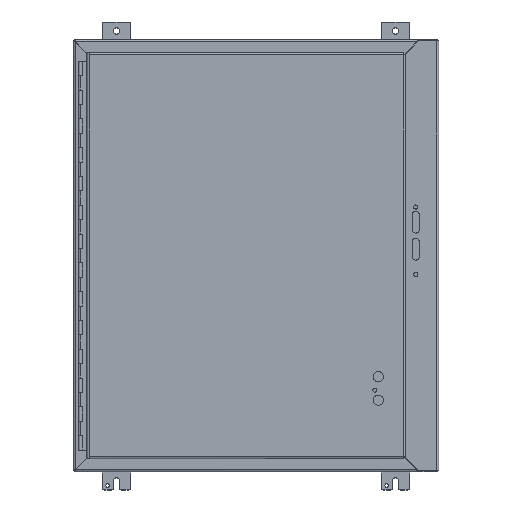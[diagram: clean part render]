
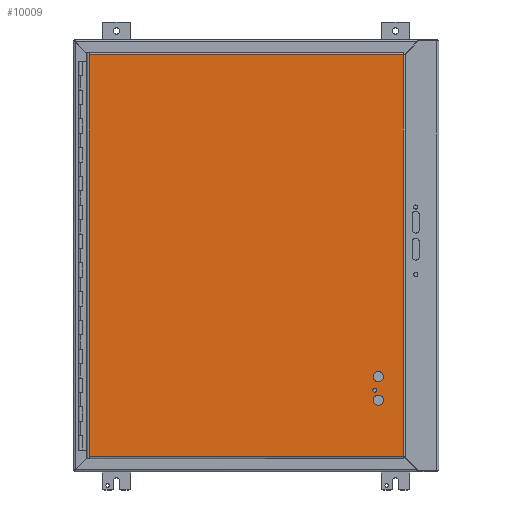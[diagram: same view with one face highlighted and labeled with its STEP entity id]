
A CAD part, top view. The second image highlights one B-rep face of the part: STEP entity #10009.
In plain terms, the highlighted planar face has unit normal (0, 0, 1).
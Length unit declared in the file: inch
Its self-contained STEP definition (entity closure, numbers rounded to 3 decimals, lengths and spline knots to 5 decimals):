
#9821 = VERTEX_POINT ( 'NONE', #15485 ) ;
#9838 = VERTEX_POINT ( 'NONE', #15514 ) ;
#9845 = VERTEX_POINT ( 'NONE', #15555 ) ;
#9846 = EDGE_CURVE ( 'NONE', #9838, #9821, #15554, .T. ) ;
#9852 = VERTEX_POINT ( 'NONE', #15543 ) ;
#9864 = EDGE_CURVE ( 'NONE', #10317, #9867, #15585, .T. ) ;
#9867 = VERTEX_POINT ( 'NONE', #15575 ) ;
#9923 = VERTEX_POINT ( 'NONE', #15690 ) ;
#9942 = VERTEX_POINT ( 'NONE', #15712 ) ;
#9943 = EDGE_CURVE ( 'NONE', #9845, #9942, #15711, .T. ) ;
#9962 = EDGE_LOOP ( 'NONE', ( #9977, #9966 ) ) ;
#9966 = ORIENTED_EDGE ( 'NONE', *, *, #9846, .F. ) ;
#9969 = EDGE_CURVE ( 'NONE', #9821, #9838, #15795, .T. ) ;
#9972 = EDGE_LOOP ( 'NONE', ( #9974, #9975 ) ) ;
#9973 = EDGE_CURVE ( 'NONE', #9867, #10317, #15787, .T. ) ;
#9974 = ORIENTED_EDGE ( 'NONE', *, *, #9973, .F. ) ;
#9975 = ORIENTED_EDGE ( 'NONE', *, *, #9864, .F. ) ;
#9977 = ORIENTED_EDGE ( 'NONE', *, *, #9969, .F. ) ;
#9979 = EDGE_LOOP ( 'NONE', ( #9984, #10151 ) ) ;
#9983 = EDGE_CURVE ( 'NONE', #9942, #9845, #15775, .T. ) ;
#9984 = ORIENTED_EDGE ( 'NONE', *, *, #9983, .F. ) ;
#10009 = ADVANCED_FACE ( 'NONE', ( #15841, #15840, #15839, #15838 ), #15847, .F. ) ;
#10127 = VERTEX_POINT ( 'NONE', #16048 ) ;
#10128 = VERTEX_POINT ( 'NONE', #16047 ) ;
#10129 = EDGE_CURVE ( 'NONE', #10128, #10127, #16046, .T. ) ;
#10131 = ORIENTED_EDGE ( 'NONE', *, *, #10134, .T. ) ;
#10133 = ORIENTED_EDGE ( 'NONE', *, *, #10129, .T. ) ;
#10134 = EDGE_CURVE ( 'NONE', #9923, #9852, #16042, .T. ) ;
#10137 = EDGE_CURVE ( 'NONE', #10127, #9923, #16102, .T. ) ;
#10141 = ORIENTED_EDGE ( 'NONE', *, *, #10137, .T. ) ;
#10143 = EDGE_CURVE ( 'NONE', #9852, #10128, #16093, .T. ) ;
#10151 = ORIENTED_EDGE ( 'NONE', *, *, #9943, .F. ) ;
#10155 = ORIENTED_EDGE ( 'NONE', *, *, #10143, .T. ) ;
#10157 = EDGE_LOOP ( 'NONE', ( #10155, #10133, #10141, #10131 ) ) ;
#10317 = VERTEX_POINT ( 'NONE', #16388 ) ;
#15485 = CARTESIAN_POINT ( 'NONE',  ( 9.5365, -10.032, 0.072 ) ) ;
#15514 = CARTESIAN_POINT ( 'NONE',  ( 8.8335, -10.032, 0.072 ) ) ;
#15543 = CARTESIAN_POINT ( 'NONE',  ( -10.908, -13.943, 0.072 ) ) ;
#15550 = DIRECTION ( 'NONE',  ( 1., 0., 0. ) ) ;
#15551 = DIRECTION ( 'NONE',  ( 0., 0., 1. ) ) ;
#15552 = CARTESIAN_POINT ( 'NONE',  ( 9.185, -10.032, 0.072 ) ) ;
#15553 = AXIS2_PLACEMENT_3D ( 'NONE', #15552, #15551, #15550 ) ;
#15554 = CIRCLE ( 'NONE', #15553, 0.3515 ) ;
#15555 = CARTESIAN_POINT ( 'NONE',  ( 8.7945, -9.345, 0.072 ) ) ;
#15575 = CARTESIAN_POINT ( 'NONE',  ( 9.5365, -8.407, 0.072 ) ) ;
#15581 = DIRECTION ( 'NONE',  ( 1., 0., 0. ) ) ;
#15582 = DIRECTION ( 'NONE',  ( 0., 0., 1. ) ) ;
#15583 = CARTESIAN_POINT ( 'NONE',  ( 9.185, -8.407, 0.072 ) ) ;
#15584 = AXIS2_PLACEMENT_3D ( 'NONE', #15583, #15582, #15581 ) ;
#15585 = CIRCLE ( 'NONE', #15584, 0.3515 ) ;
#15690 = CARTESIAN_POINT ( 'NONE',  ( -10.908, 13.943, 0.072 ) ) ;
#15707 = DIRECTION ( 'NONE',  ( 1., 0., 0. ) ) ;
#15708 = DIRECTION ( 'NONE',  ( 0., 0., 1. ) ) ;
#15709 = CARTESIAN_POINT ( 'NONE',  ( 8.935, -9.345, 0.072 ) ) ;
#15710 = AXIS2_PLACEMENT_3D ( 'NONE', #15709, #15708, #15707 ) ;
#15711 = CIRCLE ( 'NONE', #15710, 0.1405 ) ;
#15712 = CARTESIAN_POINT ( 'NONE',  ( 9.0755, -9.345, 0.072 ) ) ;
#15775 = CIRCLE ( 'NONE', #15835, 0.1405 ) ;
#15783 = DIRECTION ( 'NONE',  ( 1., 0., 0. ) ) ;
#15784 = DIRECTION ( 'NONE',  ( 0., 0., 1. ) ) ;
#15785 = CARTESIAN_POINT ( 'NONE',  ( 9.185, -8.407, 0.072 ) ) ;
#15786 = AXIS2_PLACEMENT_3D ( 'NONE', #15785, #15784, #15783 ) ;
#15787 = CIRCLE ( 'NONE', #15786, 0.3515 ) ;
#15791 = DIRECTION ( 'NONE',  ( 1., 0., 0. ) ) ;
#15792 = DIRECTION ( 'NONE',  ( 0., 0., 1. ) ) ;
#15793 = CARTESIAN_POINT ( 'NONE',  ( 9.185, -10.032, 0.072 ) ) ;
#15794 = AXIS2_PLACEMENT_3D ( 'NONE', #15793, #15792, #15791 ) ;
#15795 = CIRCLE ( 'NONE', #15794, 0.3515 ) ;
#15832 = DIRECTION ( 'NONE',  ( 1., 0., 0. ) ) ;
#15833 = DIRECTION ( 'NONE',  ( 0., 0., 1. ) ) ;
#15834 = CARTESIAN_POINT ( 'NONE',  ( 8.935, -9.345, 0.072 ) ) ;
#15835 = AXIS2_PLACEMENT_3D ( 'NONE', #15834, #15833, #15832 ) ;
#15836 = CARTESIAN_POINT ( 'NONE',  ( -11.06, 14.095, 0.072 ) ) ;
#15837 = AXIS2_PLACEMENT_3D ( 'NONE', #15836, #15903, #15902 ) ;
#15838 = FACE_OUTER_BOUND ( 'NONE', #10157, .T. ) ;
#15839 = FACE_BOUND ( 'NONE', #9979, .T. ) ;
#15840 = FACE_BOUND ( 'NONE', #9972, .T. ) ;
#15841 = FACE_BOUND ( 'NONE', #9962, .T. ) ;
#15847 = PLANE ( 'NONE',  #15837 ) ;
#15902 = DIRECTION ( 'NONE',  ( -1., 0., 0. ) ) ;
#15903 = DIRECTION ( 'NONE',  ( 0., 0., -1. ) ) ;
#16039 = DIRECTION ( 'NONE',  ( 0., -1., 0. ) ) ;
#16040 = VECTOR ( 'NONE', #16039, 39.37008 ) ;
#16041 = CARTESIAN_POINT ( 'NONE',  ( -10.908, 14.095, 0.072 ) ) ;
#16042 = LINE ( 'NONE', #16041, #16040 ) ;
#16043 = DIRECTION ( 'NONE',  ( 0., 1., 0. ) ) ;
#16044 = VECTOR ( 'NONE', #16043, 39.37008 ) ;
#16045 = CARTESIAN_POINT ( 'NONE',  ( 10.908, -13.99516, 0.072 ) ) ;
#16046 = LINE ( 'NONE', #16045, #16044 ) ;
#16047 = CARTESIAN_POINT ( 'NONE',  ( 10.908, -13.943, 0.072 ) ) ;
#16048 = CARTESIAN_POINT ( 'NONE',  ( 10.908, 13.943, 0.072 ) ) ;
#16090 = DIRECTION ( 'NONE',  ( 1., 0., 0. ) ) ;
#16091 = VECTOR ( 'NONE', #16090, 39.37008 ) ;
#16092 = CARTESIAN_POINT ( 'NONE',  ( -10.908, -13.943, 0.072 ) ) ;
#16093 = LINE ( 'NONE', #16092, #16091 ) ;
#16099 = DIRECTION ( 'NONE',  ( -1., 0., 0. ) ) ;
#16100 = VECTOR ( 'NONE', #16099, 39.37008 ) ;
#16101 = CARTESIAN_POINT ( 'NONE',  ( 10.96016, 13.943, 0.072 ) ) ;
#16102 = LINE ( 'NONE', #16101, #16100 ) ;
#16388 = CARTESIAN_POINT ( 'NONE',  ( 8.8335, -8.407, 0.072 ) ) ;
